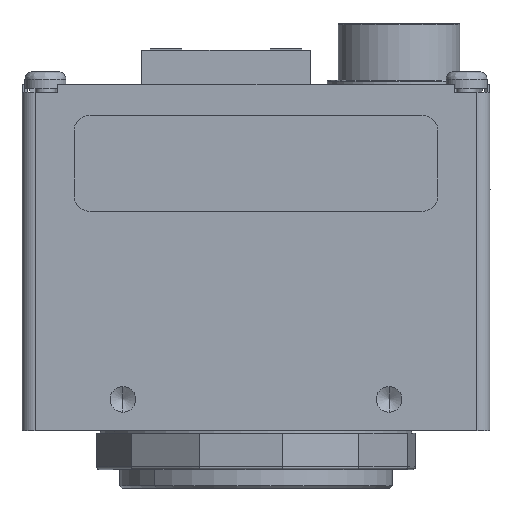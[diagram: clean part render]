
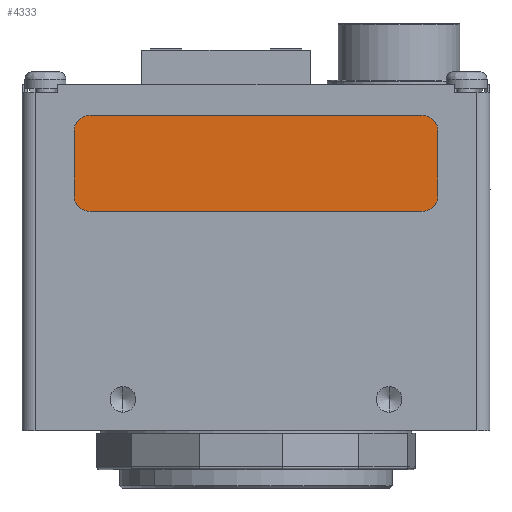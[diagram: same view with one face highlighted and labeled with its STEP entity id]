
A CAD part, front view. The second image highlights one B-rep face of the part: STEP entity #4333.
In plain terms, the highlighted planar face has unit normal (0, -1, 0).
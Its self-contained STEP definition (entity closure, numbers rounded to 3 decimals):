
#2035 = EDGE_CURVE ( 'NONE', #8759, #18015, #21143, .T. ) ;
#4333 = ADVANCED_FACE ( 'NONE', ( #10148 ), #77762, .T. ) ;
#8568 = EDGE_CURVE ( 'NONE', #42804, #33079, #108397, .T. ) ;
#8759 = VERTEX_POINT ( 'NONE', #133021 ) ;
#10148 = FACE_OUTER_BOUND ( 'NONE', #73266, .T. ) ;
#10406 = DIRECTION ( 'NONE',  ( 0., 0., -1. ) ) ;
#10798 = CARTESIAN_POINT ( 'NONE',  ( -17.78, -16.002, 29.217 ) ) ;
#10844 = DIRECTION ( 'NONE',  ( 0., 0., -1. ) ) ;
#18015 = VERTEX_POINT ( 'NONE', #119997 ) ;
#18021 = AXIS2_PLACEMENT_3D ( 'NONE', #102785, #102755, #102589 ) ;
#18581 = AXIS2_PLACEMENT_3D ( 'NONE', #155728, #84340, #10844 ) ;
#20792 = EDGE_CURVE ( 'NONE', #126009, #8759, #122306, .T. ) ;
#21143 = LINE ( 'NONE', #137831, #53917 ) ;
#24599 = CARTESIAN_POINT ( 'NONE',  ( -16.192, -16.002, 30.804 ) ) ;
#27242 = ORIENTED_EDGE ( 'NONE', *, *, #20792, .T. ) ;
#28243 = VECTOR ( 'NONE', #151071, 1000. ) ;
#29855 = CARTESIAN_POINT ( 'NONE',  ( -16.192, -16.002, 29.217 ) ) ;
#33079 = VERTEX_POINT ( 'NONE', #24599 ) ;
#39956 = ORIENTED_EDGE ( 'NONE', *, *, #81160, .T. ) ;
#42255 = DIRECTION ( 'NONE',  ( 0., 0., -1. ) ) ;
#42804 = VERTEX_POINT ( 'NONE', #148268 ) ;
#43257 = EDGE_CURVE ( 'NONE', #146362, #42804, #115173, .T. ) ;
#44795 = CARTESIAN_POINT ( 'NONE',  ( -17.78, -16.002, 22.994 ) ) ;
#45544 = CARTESIAN_POINT ( 'NONE',  ( 17.78, -16.002, 29.217 ) ) ;
#50147 = VECTOR ( 'NONE', #10406, 1000. ) ;
#53917 = VECTOR ( 'NONE', #137446, 1000. ) ;
#55142 = EDGE_CURVE ( 'NONE', #74019, #126009, #82512, .T. ) ;
#58777 = VERTEX_POINT ( 'NONE', #66837 ) ;
#60684 = AXIS2_PLACEMENT_3D ( 'NONE', #29855, #114971, #42255 ) ;
#66837 = CARTESIAN_POINT ( 'NONE',  ( 17.78, -16.002, 22.994 ) ) ;
#69910 = DIRECTION ( 'NONE',  ( 0., 0., -1. ) ) ;
#70257 = DIRECTION ( 'NONE',  ( 0., -1., 0. ) ) ;
#70385 = CARTESIAN_POINT ( 'NONE',  ( 16.192, -16.002, 22.994 ) ) ;
#71421 = ORIENTED_EDGE ( 'NONE', *, *, #109524, .T. ) ;
#72806 = ORIENTED_EDGE ( 'NONE', *, *, #8568, .T. ) ;
#73266 = EDGE_LOOP ( 'NONE', ( #27242, #78805, #39956, #71421, #129409, #72806, #80293, #152294 ) ) ;
#74019 = VERTEX_POINT ( 'NONE', #83889 ) ;
#77762 = PLANE ( 'NONE',  #150105 ) ;
#78805 = ORIENTED_EDGE ( 'NONE', *, *, #2035, .T. ) ;
#80293 = ORIENTED_EDGE ( 'NONE', *, *, #150544, .T. ) ;
#81160 = EDGE_CURVE ( 'NONE', #18015, #58777, #87200, .T. ) ;
#82512 = LINE ( 'NONE', #10798, #50147 ) ;
#83889 = CARTESIAN_POINT ( 'NONE',  ( -17.78, -16.002, 29.217 ) ) ;
#84340 = DIRECTION ( 'NONE',  ( 0., -1., 0. ) ) ;
#87200 = CIRCLE ( 'NONE', #18581, 1.587 ) ;
#88619 = VECTOR ( 'NONE', #142157, 1000. ) ;
#91924 = CIRCLE ( 'NONE', #60684, 1.587 ) ;
#102589 = DIRECTION ( 'NONE',  ( 0., 0., -1. ) ) ;
#102755 = DIRECTION ( 'NONE',  ( 0., -1., 0. ) ) ;
#102785 = CARTESIAN_POINT ( 'NONE',  ( 16.192, -16.002, 29.217 ) ) ;
#108397 = LINE ( 'NONE', #145795, #28243 ) ;
#109524 = EDGE_CURVE ( 'NONE', #58777, #146362, #120653, .T. ) ;
#113215 = AXIS2_PLACEMENT_3D ( 'NONE', #152099, #151891, #151757 ) ;
#114971 = DIRECTION ( 'NONE',  ( 0., -1., 0. ) ) ;
#115173 = CIRCLE ( 'NONE', #18021, 1.587 ) ;
#119997 = CARTESIAN_POINT ( 'NONE',  ( 16.192, -16.002, 21.406 ) ) ;
#120653 = LINE ( 'NONE', #45544, #88619 ) ;
#122306 = CIRCLE ( 'NONE', #113215, 1.587 ) ;
#126009 = VERTEX_POINT ( 'NONE', #44795 ) ;
#129409 = ORIENTED_EDGE ( 'NONE', *, *, #43257, .T. ) ;
#133021 = CARTESIAN_POINT ( 'NONE',  ( -16.192, -16.002, 21.406 ) ) ;
#137446 = DIRECTION ( 'NONE',  ( 1., 0., 0. ) ) ;
#137831 = CARTESIAN_POINT ( 'NONE',  ( -16.193, -16.002, 21.406 ) ) ;
#142157 = DIRECTION ( 'NONE',  ( 0., 0., 1. ) ) ;
#145795 = CARTESIAN_POINT ( 'NONE',  ( -16.192, -16.002, 30.804 ) ) ;
#146362 = VERTEX_POINT ( 'NONE', #148064 ) ;
#148064 = CARTESIAN_POINT ( 'NONE',  ( 17.78, -16.002, 29.217 ) ) ;
#148268 = CARTESIAN_POINT ( 'NONE',  ( 16.192, -16.002, 30.804 ) ) ;
#150105 = AXIS2_PLACEMENT_3D ( 'NONE', #70385, #70257, #69910 ) ;
#150544 = EDGE_CURVE ( 'NONE', #33079, #74019, #91924, .T. ) ;
#151071 = DIRECTION ( 'NONE',  ( -1., 0., 0. ) ) ;
#151757 = DIRECTION ( 'NONE',  ( 0., 0., -1. ) ) ;
#151891 = DIRECTION ( 'NONE',  ( 0., -1., 0. ) ) ;
#152099 = CARTESIAN_POINT ( 'NONE',  ( -16.192, -16.002, 22.994 ) ) ;
#152294 = ORIENTED_EDGE ( 'NONE', *, *, #55142, .T. ) ;
#155728 = CARTESIAN_POINT ( 'NONE',  ( 16.192, -16.002, 22.994 ) ) ;
